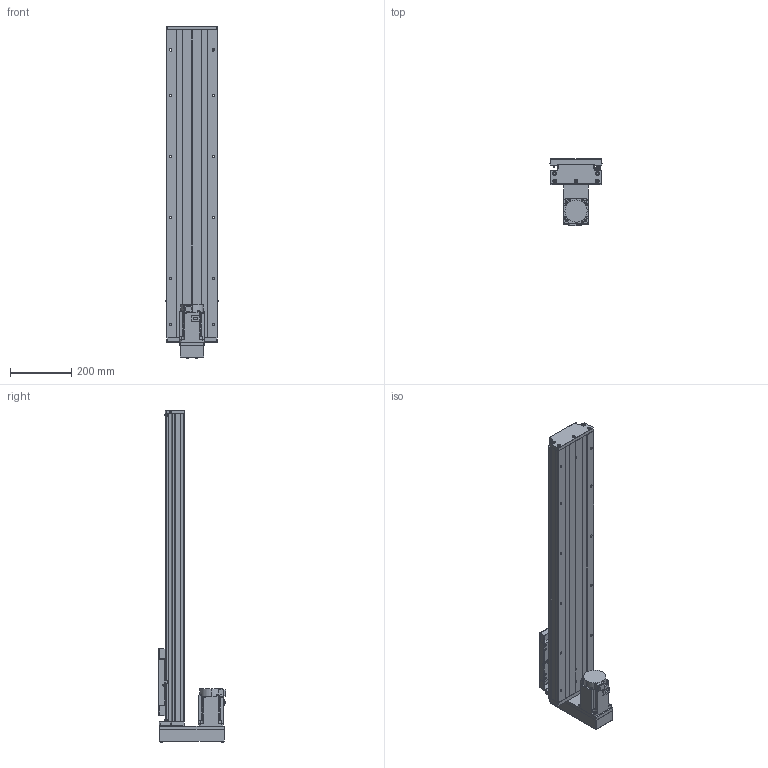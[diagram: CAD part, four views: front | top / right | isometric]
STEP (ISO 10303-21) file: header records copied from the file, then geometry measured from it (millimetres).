
FILE_DESCRIPTION (( 'STEP AP203' ), '1' );
FILE_NAME ('GTH17-750-BM-M75-C4.step', '2023-06-30T12:40:52', ( '微软用户' ), ( '微软中国' ), 'SwSTEP 2.0', 'SolidWorks 2020', '' );
FILE_SCHEMA (( 'CONFIG_CONTROL_DESIGN' ));
Length unit declared in the file: millimetre
Products named in the file (19): CTHA60-016; HG-KN73J-S100; GTH17-002_GTH17-002; GBT 70.1-M3℅5; GBT 70.2-M4¡Á45_M4¡Á35; GTH17-004; GBT77-2000 M3×3; GTH17-015-2_CTHA86-015-2; GTH17-005; GBT 70.1-M6¡Á20_M6¡Á20; GTH17-033; GB1155-6X6; GTH17-031; GTH17-750-BM-M75-C4; CTHA60-017; GBT 70.2-M3¡Á5_M3¡Á6; EE_SX911P_R; す晦芛蹟隊 M3℅5; GTH17-001_750
Assembly tree (58 placements, depth 2):
  GTH17-750-BM-M75-C4
    GTH17-001_750
    GTH17-002_GTH17-002
    GTH17-004
    GTH17-005
    GB1155-6X6  x2
    CTHA60-017  x3
    EE_SX911P_R  x3
    CTHA60-016  x2
    GBT 70.1-M3℅5  x6
    GBT77-2000 M3×3  x6
    GBT 70.1-M6¡Á20_M6¡Á20  x10
    GTH17-031
    GBT 70.2-M3¡Á5_M3¡Á6  x8
    す晦芛蹟隊 M3℅5  x6
    HG-KN73J-S100
    GBT 70.2-M4¡Á45_M4¡Á35  x4
    GTH17-015-2_CTHA86-015-2
    GTH17-033
Bounding box: 171 x 222.3 x 1088.2 mm (x, y, z)
Volume: 9075829.4 mm3; surface area: 1259226.1 mm2
Topology: 61 solids, 61 shells, 2449 faces, 5845 edges, 3619 vertices
Faces by surface type: plane 1310, cylinder 666, cone 297, torus 124, sphere 32, bspline 20
Entity records: 44738 total; most frequent: CARTESIAN_POINT 10366, DIRECTION 6481, ORIENTED_EDGE 6402, EDGE_CURVE 3201, AXIS2_PLACEMENT_3D 2212, VECTOR 2057, LINE 2057, VERTEX_POINT 2031
